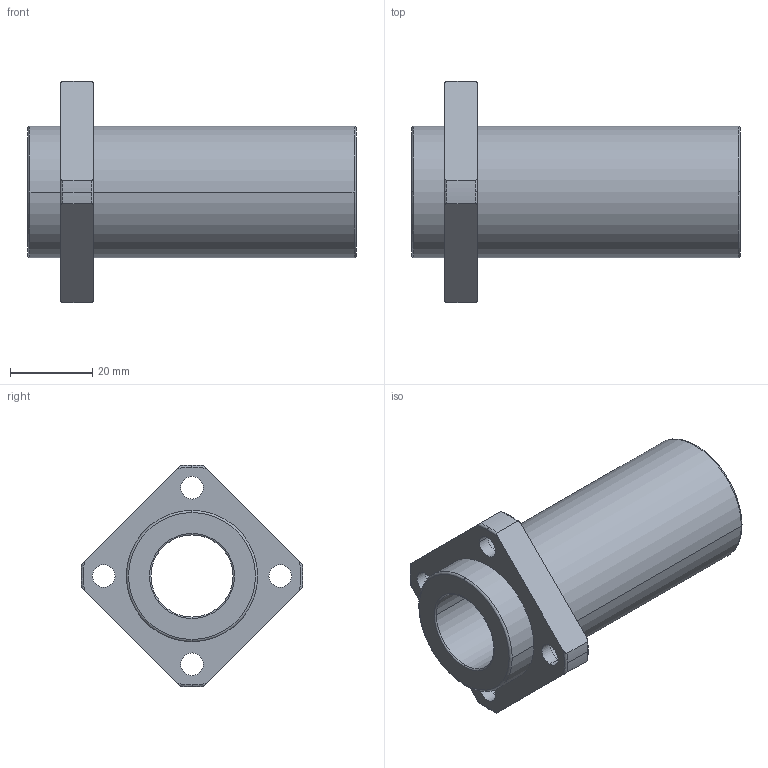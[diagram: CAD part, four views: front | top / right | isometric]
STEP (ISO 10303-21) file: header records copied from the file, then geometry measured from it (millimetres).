
FILE_DESCRIPTION(('FreeCAD Model'),'2;1');
FILE_NAME('Open CASCADE Shape Model','2021-05-03T14:38:47',('Author'),( ''),'Open CASCADE STEP processor 7.5','FreeCAD','Unknown');
FILE_SCHEMA(('AUTOMOTIVE_DESIGN { 1 0 10303 214 1 1 1 1 }'));
Length unit declared in the file: millimetre
Products named in the file (1): linear_lmkp20luu
Bounding box: 80 x 54 x 54 mm (x, y, z)
Volume: 45051.3 mm3; surface area: 16882.1 mm2
Topology: 1 solids, 1 shells, 60 faces, 160 edges, 108 vertices
Faces by surface type: cylinder 28, torus 20, plane 12
Entity records: 6032 total; most frequent: CARTESIAN_POINT 2829, DIRECTION 620, ORIENTED_EDGE 320, PCURVE 320, DEFINITIONAL_REPRESENTATION 320, LINE 268, VECTOR 268, AXIS2_PLACEMENT_3D 165
